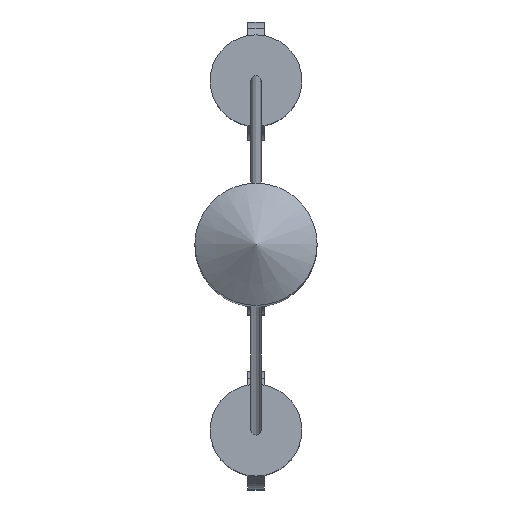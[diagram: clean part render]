
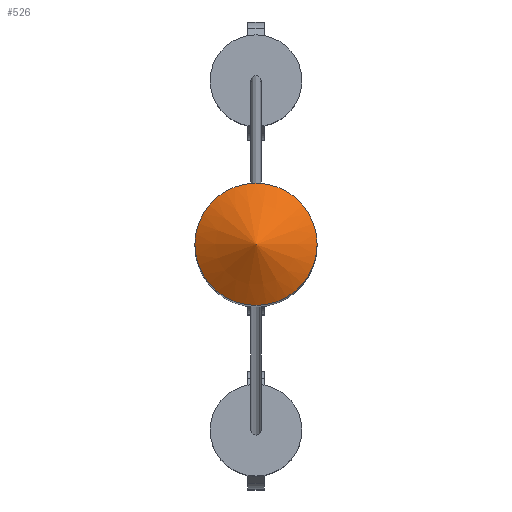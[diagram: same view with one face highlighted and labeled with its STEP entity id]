
A CAD part, top view. The second image highlights one B-rep face of the part: STEP entity #526.
In plain terms, the highlighted conical face has half-angle 60 degrees and reference radius 3 mm.
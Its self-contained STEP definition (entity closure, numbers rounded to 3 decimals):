
#121 = CARTESIAN_POINT ( 'NONE',  ( 0., 6.19, 66.783 ) ) ;
#228 = ORIENTED_EDGE ( 'NONE', *, *, #2214, .T. ) ;
#347 = AXIS2_PLACEMENT_3D ( 'NONE', #1065, #1038, #851 ) ;
#526 = ADVANCED_FACE ( 'NONE', ( #927 ), #2250, .T. ) ;
#686 = AXIS2_PLACEMENT_3D ( 'NONE', #121, #2027, #1699 ) ;
#851 = DIRECTION ( 'NONE',  ( 1., 0., 0. ) ) ;
#927 = FACE_OUTER_BOUND ( 'NONE', #946, .T. ) ;
#946 = EDGE_LOOP ( 'NONE', ( #228 ) ) ;
#1038 = DIRECTION ( 'NONE',  ( 0., 0., 1. ) ) ;
#1065 = CARTESIAN_POINT ( 'NONE',  ( 0., 6.19, 66.783 ) ) ;
#1699 = DIRECTION ( 'NONE',  ( -1., 0., 0. ) ) ;
#1743 = CARTESIAN_POINT ( 'NONE',  ( 3., 6.19, 66.783 ) ) ;
#1967 = VERTEX_POINT ( 'NONE', #1743 ) ;
#2027 = DIRECTION ( 'NONE',  ( 0., 0., -1. ) ) ;
#2214 = EDGE_CURVE ( 'NONE', #1967, #1967, #2318, .T. ) ;
#2250 = CONICAL_SURFACE ( 'NONE', #686, 3., 1.047 ) ;
#2318 = CIRCLE ( 'NONE', #347, 3. ) ;
